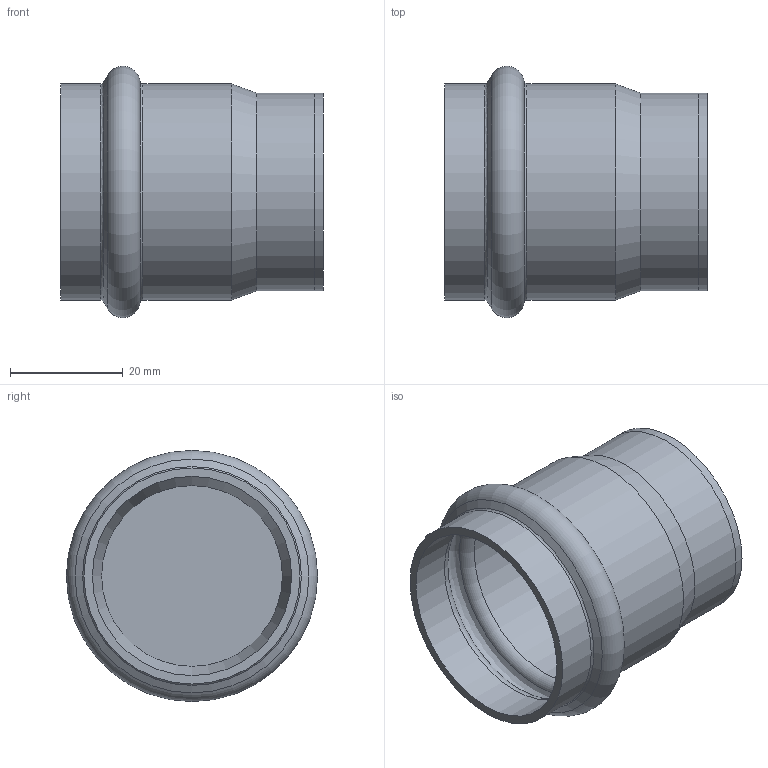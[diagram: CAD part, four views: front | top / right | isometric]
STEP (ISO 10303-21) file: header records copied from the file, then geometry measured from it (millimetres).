
FILE_DESCRIPTION((''),'2;1');
FILE_NAME('G:\Nirosan-Schmiedefeld\Technics\CAD\Bauteile VA\035\6930135(1).stp','2011-11-29T08:19:36',('herberg'),(''),'Autodesk Inventor 2009','Autodesk Inventor 2009','');
FILE_SCHEMA(('AUTOMOTIVE_DESIGN { 1 0 10303 214 1 1 1 1 }'));
Length unit declared in the file: millimetre
Products named in the file (3): 6930135(1); HM_6924335(1); D_6930135(0)
Assembly tree (2 placements, depth 2):
  6930135(1)
    HM_6924335(1)
    D_6930135(0)
Bounding box: 46.5 x 44.49 x 44.49 mm (x, y, z)
Volume: 9782.6 mm3; surface area: 13537.8 mm2
Topology: 2 solids, 2 shells, 21 faces, 37 edges, 20 vertices
Faces by surface type: cylinder 7, cone 4, plane 4, torus 3, bspline 3
Full cylindrical faces by diameter (mm): 32 x1, 35 x2, 35.25 x2, 38.25 x2
Entity records: 663 total; most frequent: CARTESIAN_POINT 234, DIRECTION 86, AXIS2_PLACEMENT_3D 43, ORIENTED_EDGE 40, EDGE_LOOP 40, FACE_OUTER_BOUND 21, ADVANCED_FACE 21, VERTEX_POINT 20
